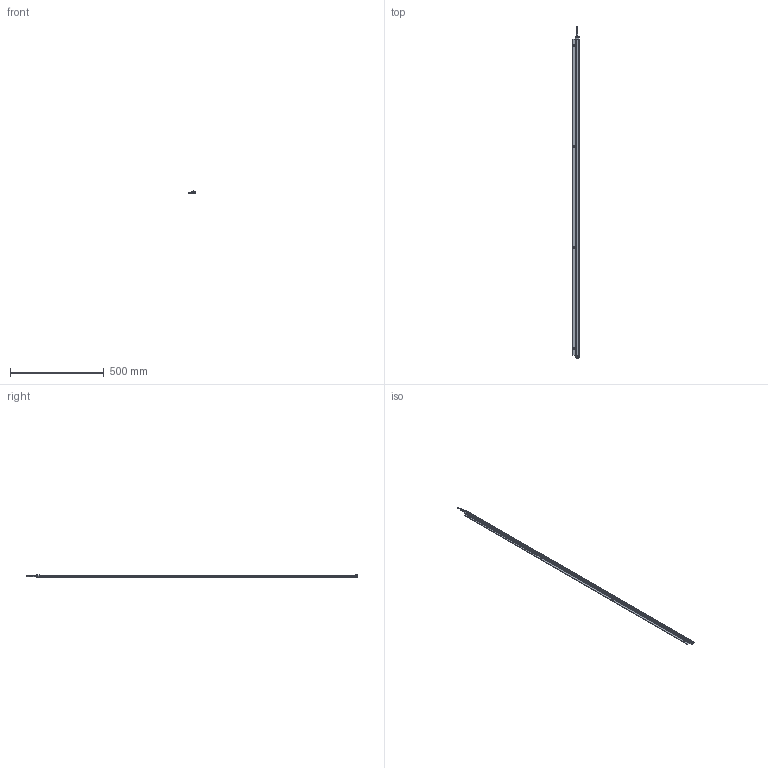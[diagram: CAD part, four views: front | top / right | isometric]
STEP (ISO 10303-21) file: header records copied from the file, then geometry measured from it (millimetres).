
FILE_DESCRIPTION (( 'STEP AP214' ), '1' );
FILE_NAME ('ILGA-L-K2-1720mm.STEP', '2026-04-25T08:27:33', ( '' ), ( '' ), 'SwSTEP 2.0', 'SolidWorks 2025', '' );
FILE_SCHEMA (( 'AUTOMOTIVE_DESIGN' ));
Length unit declared in the file: millimetre
Products named in the file (1): ILGA-L-K2-1720mm
Bounding box: 35 x 1774.5 x 10.7 mm (x, y, z)
Surface area: 267040.9 mm2 (no closed solid volume)
Topology: 0 solids, 13 shells, 931 faces, 2444 edges, 1515 vertices
Faces by surface type: cylinder 380, plane 343, cone 86, bspline 56, torus 50, sphere 16
Entity records: 41246 total; most frequent: CARTESIAN_POINT 8504, ORIENTED_EDGE 4769, DIRECTION 4682, EDGE_CURVE 2392, AXIS2_PLACEMENT_3D 1797, VERTEX_POINT 1515, LINE 1088, VECTOR 1088
